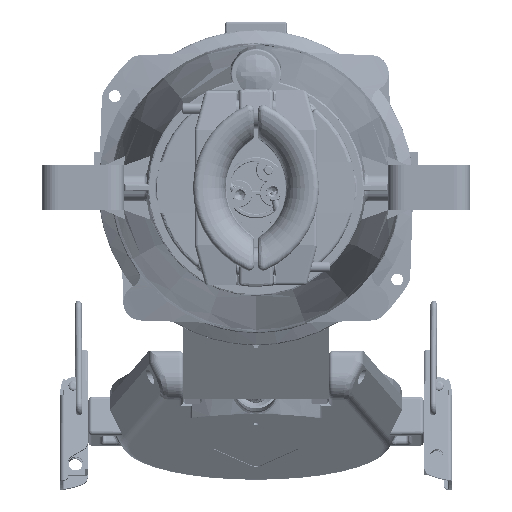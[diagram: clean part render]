
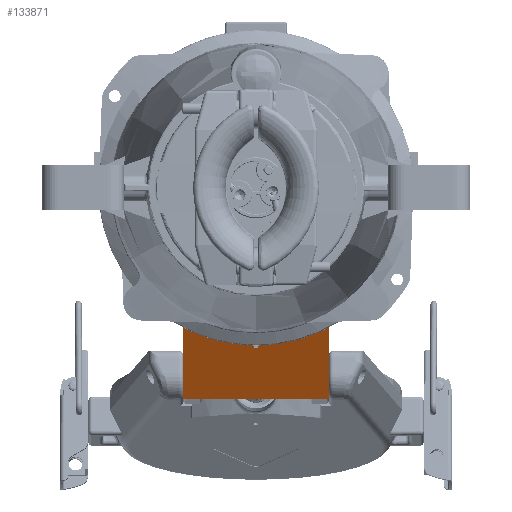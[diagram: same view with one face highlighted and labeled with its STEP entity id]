
A CAD part, front view. The second image highlights one B-rep face of the part: STEP entity #133871.
In plain terms, the highlighted planar face has unit normal (0, -0.867, -0.498) as drawn and (-0.867, 0.498, 0) by its records, which use the part's own axes.
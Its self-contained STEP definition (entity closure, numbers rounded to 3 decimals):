
#655 = CARTESIAN_POINT ( 'NONE',  ( 35.189, 71.239, 40.614 ) ) ;
#5467 = DIRECTION ( 'NONE',  ( -0.498, -0.867, 0. ) ) ;
#5900 = ORIENTED_EDGE ( 'NONE', *, *, #72753, .T. ) ;
#12181 = CARTESIAN_POINT ( 'NONE',  ( 35.971, 72.601, 40.25 ) ) ;
#14881 = EDGE_CURVE ( 'NONE', #27010, #156468, #65080, .T. ) ;
#17613 = VERTEX_POINT ( 'NONE', #60700 ) ;
#21575 = CARTESIAN_POINT ( 'NONE',  ( 34.978, 70.873, 41.244 ) ) ;
#23507 = DIRECTION ( 'NONE',  ( 0.867, -0.498, 0. ) ) ;
#27010 = VERTEX_POINT ( 'NONE', #168142 ) ;
#29024 = EDGE_LOOP ( 'NONE', ( #183794, #183349, #140899, #5900, #94122, #75574 ) ) ;
#36032 = EDGE_CURVE ( 'NONE', #155545, #131349, #158294, .T. ) ;
#49475 = CARTESIAN_POINT ( 'NONE',  ( 43.711, 86.078, -15.115 ) ) ;
#54614 = CARTESIAN_POINT ( 'NONE',  ( 34.978, 70.873, -41.244 ) ) ;
#57095 = CARTESIAN_POINT ( 'NONE',  ( 35.971, 72.601, -40.25 ) ) ;
#58573 = FACE_OUTER_BOUND ( 'NONE', #29024, .T. ) ;
#60700 = CARTESIAN_POINT ( 'NONE',  ( 34.978, 70.873, 41.244 ) ) ;
#62758 = VECTOR ( 'NONE', #124076, 1000. ) ;
#65080 =( BOUNDED_CURVE ( )  B_SPLINE_CURVE ( 3, ( #57095, #83712, #183114, #54614 ),
 .UNSPECIFIED., .F., .F. ) 
 B_SPLINE_CURVE_WITH_KNOTS ( ( 4, 4 ),
 ( 4.712, 5.756 ),
 .UNSPECIFIED. ) 
 CURVE ( )  GEOMETRIC_REPRESENTATION_ITEM ( )  RATIONAL_B_SPLINE_CURVE ( ( 1., 0.911, 0.911, 1. ) ) 
 REPRESENTATION_ITEM ( '' )  );
#71123 =( BOUNDED_CURVE ( )  B_SPLINE_CURVE ( 3, ( #107095, #49475, #150705, #21575 ),
 .UNSPECIFIED., .F., .F. ) 
 B_SPLINE_CURVE_WITH_KNOTS ( ( 4, 4 ),
 ( 2.615, 3.669 ),
 .UNSPECIFIED. ) 
 CURVE ( )  GEOMETRIC_REPRESENTATION_ITEM ( )  RATIONAL_B_SPLINE_CURVE ( ( 1., 0.91, 0.91, 1. ) ) 
 REPRESENTATION_ITEM ( '' )  );
#72753 = EDGE_CURVE ( 'NONE', #17613, #95134, #146905, .T. ) ;
#75574 = ORIENTED_EDGE ( 'NONE', *, *, #36032, .T. ) ;
#77277 = LINE ( 'NONE', #177923, #179566 ) ;
#83712 = CARTESIAN_POINT ( 'NONE',  ( 35.552, 71.872, -40.25 ) ) ;
#85840 = DIRECTION ( 'NONE',  ( -0.498, -0.867, 0. ) ) ;
#86770 = CARTESIAN_POINT ( 'NONE',  ( 34.978, 70.873, 41.244 ) ) ;
#91033 = PLANE ( 'NONE',  #103800 ) ;
#94122 = ORIENTED_EDGE ( 'NONE', *, *, #95198, .F. ) ;
#95134 = VERTEX_POINT ( 'NONE', #12181 ) ;
#95198 = EDGE_CURVE ( 'NONE', #155545, #95134, #122625, .T. ) ;
#101638 = CARTESIAN_POINT ( 'NONE',  ( 35.971, 72.601, 40.25 ) ) ;
#103800 = AXIS2_PLACEMENT_3D ( 'NONE', #132677, #23507, #161923 ) ;
#107095 = CARTESIAN_POINT ( 'NONE',  ( 34.978, 70.873, -41.244 ) ) ;
#111539 = VECTOR ( 'NONE', #85840, 1000. ) ;
#115811 = CARTESIAN_POINT ( 'NONE',  ( 34.978, 70.873, -41.244 ) ) ;
#117805 = EDGE_CURVE ( 'NONE', #131349, #27010, #77277, .T. ) ;
#122625 = LINE ( 'NONE', #169808, #111539 ) ;
#124076 = DIRECTION ( 'NONE',  ( 0., 0., -1. ) ) ;
#129446 = CARTESIAN_POINT ( 'NONE',  ( 61.468, 117., 40.25 ) ) ;
#131349 = VERTEX_POINT ( 'NONE', #155985 ) ;
#132677 = CARTESIAN_POINT ( 'NONE',  ( 29.791, 61.84, 40.25 ) ) ;
#133871 = ADVANCED_FACE ( 'NONE', ( #58573 ), #91033, .F. ) ;
#140899 = ORIENTED_EDGE ( 'NONE', *, *, #140949, .T. ) ;
#140949 = EDGE_CURVE ( 'NONE', #156468, #17613, #71123, .T. ) ;
#146905 =( BOUNDED_CURVE ( )  B_SPLINE_CURVE ( 3, ( #86770, #655, #172563, #101638 ),
 .UNSPECIFIED., .F., .F. ) 
 B_SPLINE_CURVE_WITH_KNOTS ( ( 4, 4 ),
 ( 0.527, 1.571 ),
 .UNSPECIFIED. ) 
 CURVE ( )  GEOMETRIC_REPRESENTATION_ITEM ( )  RATIONAL_B_SPLINE_CURVE ( ( 1., 0.911, 0.911, 1. ) ) 
 REPRESENTATION_ITEM ( '' )  );
#150705 = CARTESIAN_POINT ( 'NONE',  ( 43.711, 86.078, 15.115 ) ) ;
#155545 = VERTEX_POINT ( 'NONE', #129446 ) ;
#155985 = CARTESIAN_POINT ( 'NONE',  ( 61.468, 117., -40.25 ) ) ;
#156468 = VERTEX_POINT ( 'NONE', #115811 ) ;
#158294 = LINE ( 'NONE', #180639, #62758 ) ;
#161923 = DIRECTION ( 'NONE',  ( 0.498, 0.867, 0. ) ) ;
#168142 = CARTESIAN_POINT ( 'NONE',  ( 35.971, 72.601, -40.25 ) ) ;
#169808 = CARTESIAN_POINT ( 'NONE',  ( 29.791, 61.84, 40.25 ) ) ;
#172563 = CARTESIAN_POINT ( 'NONE',  ( 35.552, 71.872, 40.25 ) ) ;
#177923 = CARTESIAN_POINT ( 'NONE',  ( 29.791, 61.84, -40.25 ) ) ;
#179566 = VECTOR ( 'NONE', #5467, 1000. ) ;
#180639 = CARTESIAN_POINT ( 'NONE',  ( 61.468, 117., 40.25 ) ) ;
#183114 = CARTESIAN_POINT ( 'NONE',  ( 35.189, 71.239, -40.614 ) ) ;
#183349 = ORIENTED_EDGE ( 'NONE', *, *, #14881, .T. ) ;
#183794 = ORIENTED_EDGE ( 'NONE', *, *, #117805, .T. ) ;
